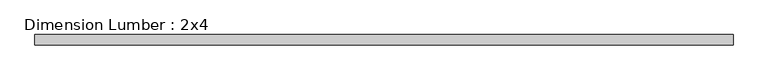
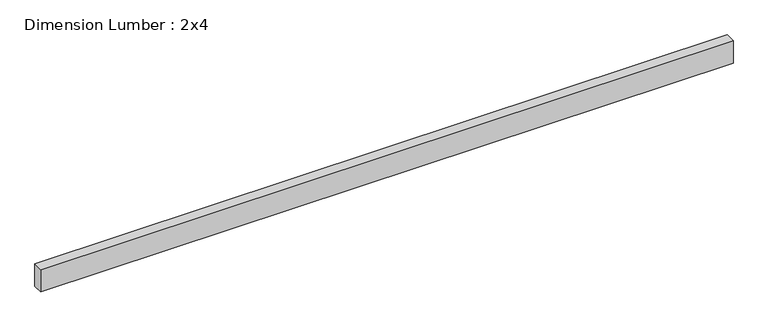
"""IFC4 building model written with IfcOpenShell, lengths in millimetres: beam geometry, Dimension Lumber : 2x4."""

from ifc_helpers import new_model, si_unit, frame, origin, place, context, project, spatial, polyline, outline, extrude, source, transform, mapped, element, save


def dimension_lumber_2x4_0c06d1dd(model_context):
    return source(origin(), model_context, "Body", "SweptSolid", [
        extrude(outline(polyline([(1285.875, 19.05), (1285.875, -19.05), (-1304.925, -19.05), (-1304.925, 19.05), (1285.875, 19.05)])), frame((0.0, 0.0, -44.45), z_axis=(0.0, 0.0, 1.0), x_axis=(1.0, 0.0, 0.0)), (0.0, 0.0, 1.0), 88.9),
    ])


if __name__ == "__main__":
    model = new_model("IFC4")
    model_context = context("Model", 3, world=origin())
    ifc_project = project(units=[si_unit("LENGTHUNIT", "METRE", prefix="MILLI")], contexts=[model_context])
    site = spatial("IfcSite", under=ifc_project)
    building = spatial("IfcBuilding", under=site)
    placement = place(None, origin())
    dimension_lumber_2x4_shape = dimension_lumber_2x4_0c06d1dd(model_context)
    element("IfcBeam", 1, ObjectType="Dimension Lumber : 2x4", at=placement, inside=building, context=model_context, shape_type="MappedRepresentation", body=[
        mapped(dimension_lumber_2x4_shape, transform((0.0, 0.0, 0.0), x_axis=(1.0, 0.0, 0.0), y_axis=(0.0, 1.0, 0.0), z_axis=(0.0, 0.0, 1.0))),
    ])
    save(model, "model.ifc")
